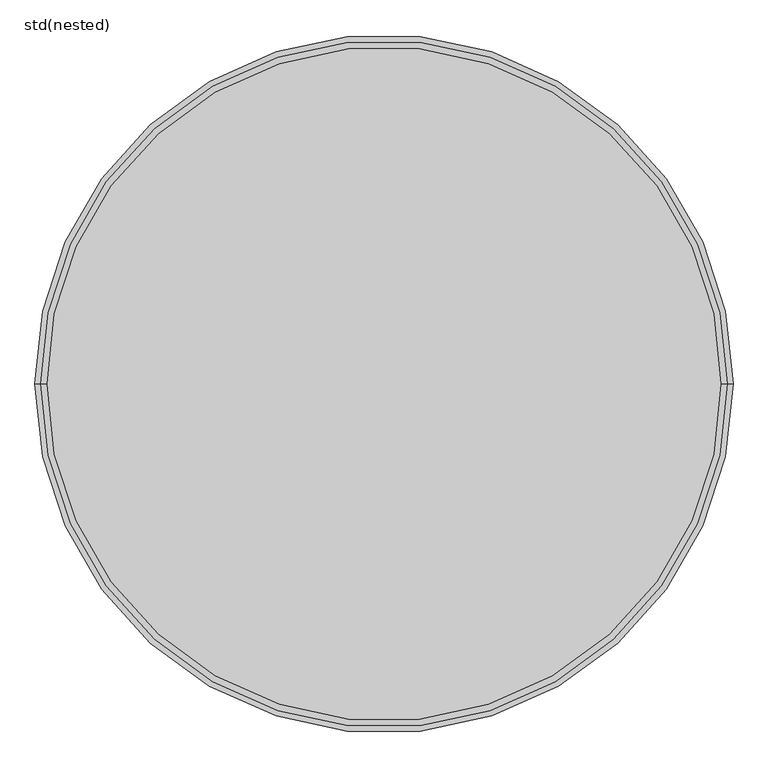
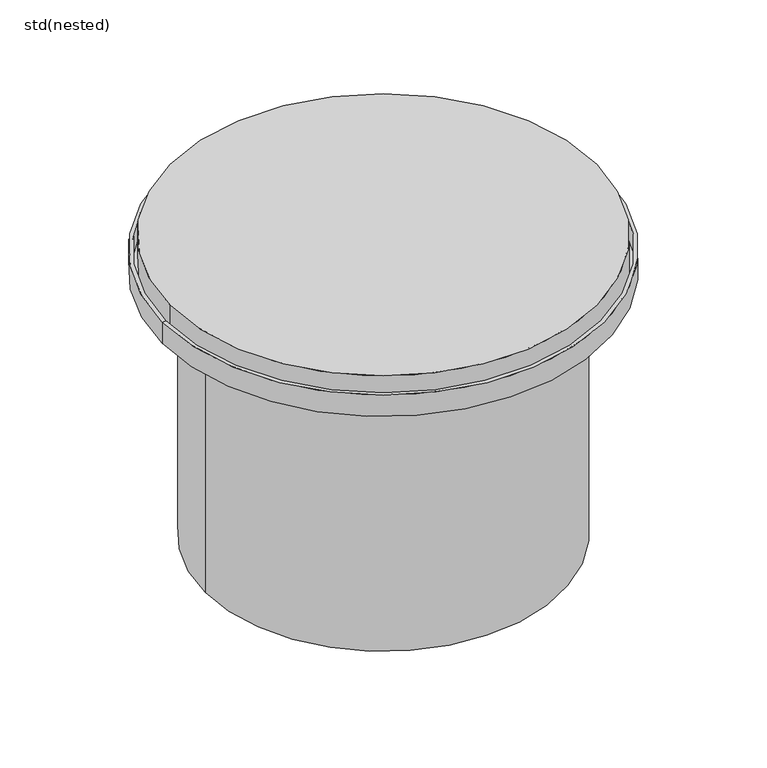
"""IFC4 building model written with IfcOpenShell, lengths in millimetres: unitary equipment geometry, ZZZ_do not use_ME_ST_WPB_top sections_plastic_ACO : std(nested)."""

from ifc_helpers import new_model, si_unit, point, frame, origin, origin_2d, place, context, project, spatial, polyline, circle_curve, trimmed, segment, composite_curve, outline, extrude, source, transform, mapped, element, save
from ifc_brep_helpers import plane_surface, cylinder_surface, revolved_surface, advanced_brep


def std_nested_fd699b8b(model_context):
    return source(origin(), model_context, "Body", "SolidModel", [
        advanced_brep(
        [(-510.0, 0.0, -35.0), (510.0, 0.0, -35.0), (518.0, 0.0, -35.0), (-518.0, 0.0, -35.0), (-510.0, 0.0, -80.0), (510.0, 0.0, -80.0), (-410.0, 0.0, -80.0), (410.0, 0.0, -80.0), (-410.0, 0.0, -740.0), (410.0, 0.0, -740.0), (-418.0, 0.0, -740.0), (418.0, 0.0, -740.0), (-418.0, 0.0, -88.0), (418.0, 0.0, -88.0), (-518.0, 0.0, -88.0), (518.0, 0.0, -88.0)],
        [
            (0, 1, circle_curve(frame((0.0, 0.0, -35.0), z_axis=(0.0, 0.0, -1.0), x_axis=(1.0, 0.0, 0.0)), 510.0)),
            (1, 2),
            (2, 3, circle_curve(frame((0.0, 0.0, -35.0), z_axis=(0.0, 0.0, 1.0), x_axis=(1.0, 0.0, 0.0)), 518.0)),
            (3, 0),
            (1, 0, circle_curve(frame((0.0, 0.0, -35.0), z_axis=(0.0, 0.0, -1.0), x_axis=(1.0, 0.0, 0.0)), 510.0)),
            (3, 2, circle_curve(frame((0.0, 0.0, -35.0), z_axis=(0.0, 0.0, 1.0), x_axis=(1.0, 0.0, 0.0)), 518.0)),
            (4, 5, circle_curve(frame((0.0, 0.0, -80.0), z_axis=(0.0, 0.0, -1.0), x_axis=(1.0, 0.0, 0.0)), 510.0)),
            (5, 1),
            (0, 4),
            (5, 4, circle_curve(frame((0.0, 0.0, -80.0), z_axis=(0.0, 0.0, -1.0), x_axis=(1.0, 0.0, 0.0)), 510.0)),
            (6, 7, circle_curve(frame((0.0, 0.0, -80.0), z_axis=(0.0, 0.0, -1.0), x_axis=(1.0, 0.0, 0.0)), 410.0)),
            (7, 5),
            (4, 6),
            (7, 6, circle_curve(frame((0.0, 0.0, -80.0), z_axis=(0.0, 0.0, -1.0), x_axis=(1.0, 0.0, 0.0)), 410.0)),
            (8, 9, circle_curve(frame((0.0, 0.0, -740.0), z_axis=(0.0, 0.0, -1.0), x_axis=(1.0, 0.0, 0.0)), 410.0)),
            (9, 7),
            (6, 8),
            (9, 8, circle_curve(frame((0.0, 0.0, -740.0), z_axis=(0.0, 0.0, -1.0), x_axis=(1.0, 0.0, 0.0)), 410.0)),
            (10, 11, circle_curve(frame((0.0, 0.0, -740.0), z_axis=(0.0, 0.0, -1.0), x_axis=(1.0, 0.0, 0.0)), 418.0)),
            (11, 9),
            (8, 10),
            (11, 10, circle_curve(frame((0.0, 0.0, -740.0), z_axis=(0.0, 0.0, -1.0), x_axis=(1.0, 0.0, 0.0)), 418.0)),
            (12, 13, circle_curve(frame((0.0, 0.0, -88.0), z_axis=(0.0, 0.0, -1.0), x_axis=(1.0, 0.0, 0.0)), 418.0)),
            (13, 11),
            (10, 12),
            (13, 12, circle_curve(frame((0.0, 0.0, -88.0), z_axis=(0.0, 0.0, -1.0), x_axis=(1.0, 0.0, 0.0)), 418.0)),
            (14, 15, circle_curve(frame((0.0, 0.0, -88.0), z_axis=(0.0, 0.0, -1.0), x_axis=(1.0, 0.0, 0.0)), 518.0)),
            (15, 13),
            (12, 14),
            (15, 14, circle_curve(frame((0.0, 0.0, -88.0), z_axis=(0.0, 0.0, -1.0), x_axis=(1.0, 0.0, 0.0)), 518.0)),
            (2, 15),
            (14, 3),
        ],
        [
            plane_surface(frame((0.0, 0.0, -35.0), z_axis=(0.0, 0.0, 1.0), x_axis=(1.0, 0.0, 0.0))),
            revolved_surface(polyline([(510.0, 0.0, -35.0), (510.0, 0.0, -80.0)]), (0.0, 0.0, 240.0), (0.0, 0.0, 1.0)),
            plane_surface(frame((0.0, 0.0, -80.0), z_axis=(0.0, 0.0, 1.0), x_axis=(1.0, 0.0, 0.0))),
            revolved_surface(polyline([(410.0, 0.0, -80.0), (410.0, 0.0, -740.0)]), (0.0, 0.0, 240.0), (0.0, 0.0, 1.0)),
            plane_surface(frame((0.0, 0.0, -740.0), z_axis=(0.0, 0.0, -1.0), x_axis=(1.0, 0.0, 0.0))),
            cylinder_surface(frame((0.0, 0.0, 240.0), z_axis=(0.0, 0.0, 1.0), x_axis=(1.0, 0.0, 0.0)), 418.0),
            plane_surface(frame((0.0, 0.0, -88.0), z_axis=(0.0, 0.0, -1.0), x_axis=(1.0, 0.0, 0.0))),
            cylinder_surface(frame((0.0, 0.0, 240.0), z_axis=(0.0, 0.0, 1.0), x_axis=(1.0, 0.0, 0.0)), 518.0),
        ],
        [
            (0, [[1, 2, 3, 4]]),
            (0, [[5, -4, 6, -2]]),
            (1, [[7, 8, -1, 9]]),
            (1, [[10, -9, -5, -8]]),
            (2, [[11, 12, -7, 13]]),
            (2, [[14, -13, -10, -12]]),
            (3, [[15, 16, -11, 17]]),
            (3, [[18, -17, -14, -16]]),
            (4, [[19, 20, -15, 21]]),
            (4, [[22, -21, -18, -20]]),
            (5, [[23, 24, -19, 25]]),
            (5, [[26, -25, -22, -24]]),
            (6, [[27, 28, -23, 29]]),
            (6, [[30, -29, -26, -28]]),
            (7, [[-3, 31, -27, 32]]),
            (7, [[-6, -32, -30, -31]]),
        ],
    ),
        extrude(outline(composite_curve([segment(trimmed(circle_curve(origin_2d(), 500.0), [point((-500.0, 0.0))], [point((500.0, 0.0))], False, "CARTESIAN"), True, "CONTINUOUS"), segment(trimmed(circle_curve(origin_2d(), 500.0), [point((500.0, 0.0))], [point((-500.0, 0.0))], False, "CARTESIAN"), True, "CONTINUOUS")], self_intersect=False)), frame((0.0, 0.0, -80.0), z_axis=(0.0, 0.0, 1.0), x_axis=(1.0, 0.0, 0.0)), (0.0, 0.0, 1.0), 80.0),
    ])


if __name__ == "__main__":
    model = new_model("IFC4")
    model_context = context("Model", 3, world=origin())
    ifc_project = project(units=[si_unit("LENGTHUNIT", "METRE", prefix="MILLI")], contexts=[model_context])
    site = spatial("IfcSite", under=ifc_project)
    building = spatial("IfcBuilding", under=site)
    placement = place(None, origin())
    std_nested_shape = std_nested_fd699b8b(model_context)
    element("IfcUnitaryEquipment", 1, ObjectType="ZZZ_do not use_ME_ST_WPB_top sections_plastic_ACO : std(nested)", at=placement, inside=building, context=model_context, shape_type="MappedRepresentation", body=[
        mapped(std_nested_shape, transform((0.0, 0.0, 0.0), x_axis=(1.0, 0.0, 0.0), y_axis=(0.0, 1.0, 0.0), z_axis=(0.0, 0.0, 1.0))),
    ])
    save(model, "model.ifc")
